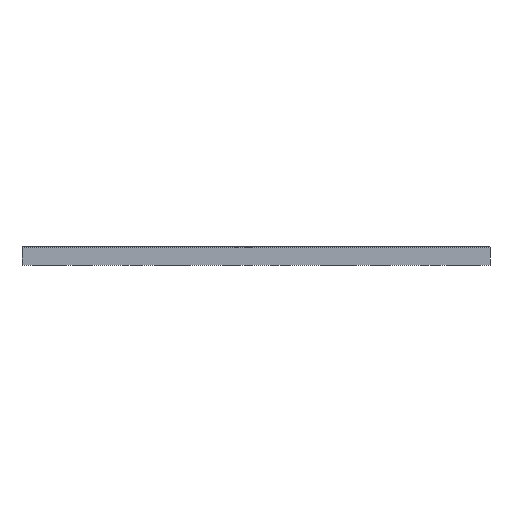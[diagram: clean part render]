
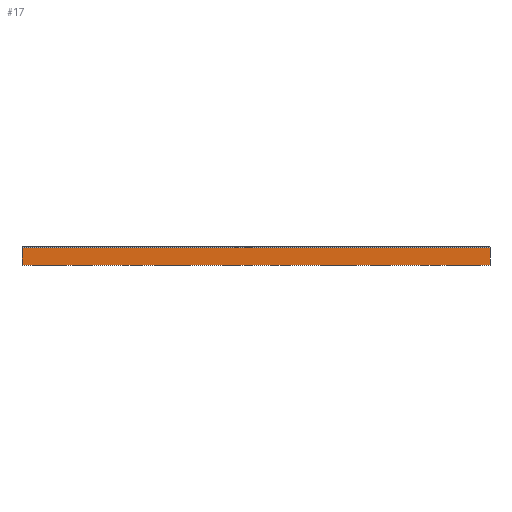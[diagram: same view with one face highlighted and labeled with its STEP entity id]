
A CAD part, left-side view. The second image highlights one B-rep face of the part: STEP entity #17.
In plain terms, the highlighted planar face has unit normal (-1, 0, 0).
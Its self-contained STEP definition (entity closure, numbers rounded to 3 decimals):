
#17 = ADVANCED_FACE('',(#18),#32,.F.);
#18 = FACE_BOUND('',#19,.F.);
#19 = EDGE_LOOP('',(#20,#55,#83,#111));
#20 = ORIENTED_EDGE('',*,*,#21,.F.);
#21 = EDGE_CURVE('',#22,#24,#26,.T.);
#22 = VERTEX_POINT('',#23);
#23 = CARTESIAN_POINT('',(-48.5,-51.,0.));
#24 = VERTEX_POINT('',#25);
#25 = CARTESIAN_POINT('',(-48.5,-51.,3.8));
#26 = SURFACE_CURVE('',#27,(#31,#43),.PCURVE_S1.);
#27 = LINE('',#28,#29);
#28 = CARTESIAN_POINT('',(-48.5,-51.,0.));
#29 = VECTOR('',#30,1.);
#30 = DIRECTION('',(0.,0.,1.));
#31 = PCURVE('',#32,#37);
#32 = PLANE('',#33);
#33 = AXIS2_PLACEMENT_3D('',#34,#35,#36);
#34 = CARTESIAN_POINT('',(-48.5,-51.,0.));
#35 = DIRECTION('',(1.,0.,0.));
#36 = DIRECTION('',(0.,0.,1.));
#37 = DEFINITIONAL_REPRESENTATION('',(#38),#42);
#38 = LINE('',#39,#40);
#39 = CARTESIAN_POINT('',(0.,0.));
#40 = VECTOR('',#41,1.);
#41 = DIRECTION('',(1.,0.));
#42 = ( GEOMETRIC_REPRESENTATION_CONTEXT(2) 
PARAMETRIC_REPRESENTATION_CONTEXT() REPRESENTATION_CONTEXT('2D SPACE',''
  ) );
#43 = PCURVE('',#44,#49);
#44 = PLANE('',#45);
#45 = AXIS2_PLACEMENT_3D('',#46,#47,#48);
#46 = CARTESIAN_POINT('',(-48.5,-51.,0.));
#47 = DIRECTION('',(0.,1.,0.));
#48 = DIRECTION('',(0.,0.,1.));
#49 = DEFINITIONAL_REPRESENTATION('',(#50),#54);
#50 = LINE('',#51,#52);
#51 = CARTESIAN_POINT('',(0.,0.));
#52 = VECTOR('',#53,1.);
#53 = DIRECTION('',(1.,0.));
#54 = ( GEOMETRIC_REPRESENTATION_CONTEXT(2) 
PARAMETRIC_REPRESENTATION_CONTEXT() REPRESENTATION_CONTEXT('2D SPACE',''
  ) );
#55 = ORIENTED_EDGE('',*,*,#56,.T.);
#56 = EDGE_CURVE('',#22,#57,#59,.T.);
#57 = VERTEX_POINT('',#58);
#58 = CARTESIAN_POINT('',(-48.5,51.,0.));
#59 = SURFACE_CURVE('',#60,(#64,#71),.PCURVE_S1.);
#60 = LINE('',#61,#62);
#61 = CARTESIAN_POINT('',(-48.5,-51.,0.));
#62 = VECTOR('',#63,1.);
#63 = DIRECTION('',(0.,1.,0.));
#64 = PCURVE('',#32,#65);
#65 = DEFINITIONAL_REPRESENTATION('',(#66),#70);
#66 = LINE('',#67,#68);
#67 = CARTESIAN_POINT('',(0.,0.));
#68 = VECTOR('',#69,1.);
#69 = DIRECTION('',(0.,-1.));
#70 = ( GEOMETRIC_REPRESENTATION_CONTEXT(2) 
PARAMETRIC_REPRESENTATION_CONTEXT() REPRESENTATION_CONTEXT('2D SPACE',''
  ) );
#71 = PCURVE('',#72,#77);
#72 = PLANE('',#73);
#73 = AXIS2_PLACEMENT_3D('',#74,#75,#76);
#74 = CARTESIAN_POINT('',(-48.5,-51.,0.));
#75 = DIRECTION('',(0.,0.,1.));
#76 = DIRECTION('',(1.,0.,0.));
#77 = DEFINITIONAL_REPRESENTATION('',(#78),#82);
#78 = LINE('',#79,#80);
#79 = CARTESIAN_POINT('',(0.,0.));
#80 = VECTOR('',#81,1.);
#81 = DIRECTION('',(0.,1.));
#82 = ( GEOMETRIC_REPRESENTATION_CONTEXT(2) 
PARAMETRIC_REPRESENTATION_CONTEXT() REPRESENTATION_CONTEXT('2D SPACE',''
  ) );
#83 = ORIENTED_EDGE('',*,*,#84,.T.);
#84 = EDGE_CURVE('',#57,#85,#87,.T.);
#85 = VERTEX_POINT('',#86);
#86 = CARTESIAN_POINT('',(-48.5,51.,3.8));
#87 = SURFACE_CURVE('',#88,(#92,#99),.PCURVE_S1.);
#88 = LINE('',#89,#90);
#89 = CARTESIAN_POINT('',(-48.5,51.,0.));
#90 = VECTOR('',#91,1.);
#91 = DIRECTION('',(0.,0.,1.));
#92 = PCURVE('',#32,#93);
#93 = DEFINITIONAL_REPRESENTATION('',(#94),#98);
#94 = LINE('',#95,#96);
#95 = CARTESIAN_POINT('',(0.,-102.));
#96 = VECTOR('',#97,1.);
#97 = DIRECTION('',(1.,0.));
#98 = ( GEOMETRIC_REPRESENTATION_CONTEXT(2) 
PARAMETRIC_REPRESENTATION_CONTEXT() REPRESENTATION_CONTEXT('2D SPACE',''
  ) );
#99 = PCURVE('',#100,#105);
#100 = PLANE('',#101);
#101 = AXIS2_PLACEMENT_3D('',#102,#103,#104);
#102 = CARTESIAN_POINT('',(-48.5,51.,0.));
#103 = DIRECTION('',(0.,1.,0.));
#104 = DIRECTION('',(0.,0.,1.));
#105 = DEFINITIONAL_REPRESENTATION('',(#106),#110);
#106 = LINE('',#107,#108);
#107 = CARTESIAN_POINT('',(0.,0.));
#108 = VECTOR('',#109,1.);
#109 = DIRECTION('',(1.,0.));
#110 = ( GEOMETRIC_REPRESENTATION_CONTEXT(2) 
PARAMETRIC_REPRESENTATION_CONTEXT() REPRESENTATION_CONTEXT('2D SPACE',''
  ) );
#111 = ORIENTED_EDGE('',*,*,#112,.F.);
#112 = EDGE_CURVE('',#24,#85,#113,.T.);
#113 = SURFACE_CURVE('',#114,(#118,#125),.PCURVE_S1.);
#114 = LINE('',#115,#116);
#115 = CARTESIAN_POINT('',(-48.5,-51.,3.8));
#116 = VECTOR('',#117,1.);
#117 = DIRECTION('',(0.,1.,0.));
#118 = PCURVE('',#32,#119);
#119 = DEFINITIONAL_REPRESENTATION('',(#120),#124);
#120 = LINE('',#121,#122);
#121 = CARTESIAN_POINT('',(3.8,0.));
#122 = VECTOR('',#123,1.);
#123 = DIRECTION('',(0.,-1.));
#124 = ( GEOMETRIC_REPRESENTATION_CONTEXT(2) 
PARAMETRIC_REPRESENTATION_CONTEXT() REPRESENTATION_CONTEXT('2D SPACE',''
  ) );
#125 = PCURVE('',#126,#131);
#126 = PLANE('',#127);
#127 = AXIS2_PLACEMENT_3D('',#128,#129,#130);
#128 = CARTESIAN_POINT('',(-48.4,-51.,3.9));
#129 = DIRECTION('',(0.707,0.,-0.707));
#130 = DIRECTION('',(0.,1.,0.));
#131 = DEFINITIONAL_REPRESENTATION('',(#132),#136);
#132 = LINE('',#133,#134);
#133 = CARTESIAN_POINT('',(0.,-0.141));
#134 = VECTOR('',#135,1.);
#135 = DIRECTION('',(1.,0.));
#136 = ( GEOMETRIC_REPRESENTATION_CONTEXT(2) 
PARAMETRIC_REPRESENTATION_CONTEXT() REPRESENTATION_CONTEXT('2D SPACE',''
  ) );
